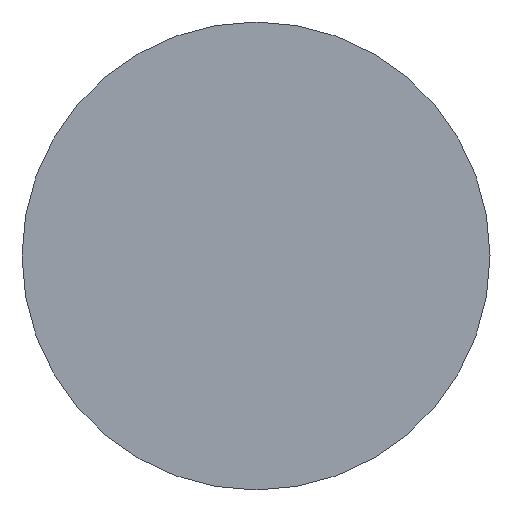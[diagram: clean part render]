
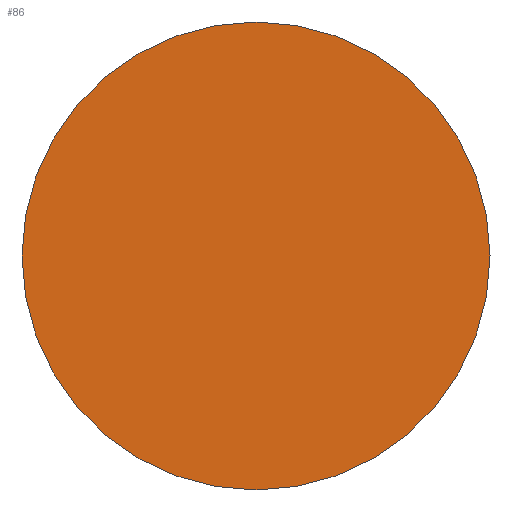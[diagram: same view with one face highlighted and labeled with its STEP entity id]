
A CAD part, left-side view. The second image highlights one B-rep face of the part: STEP entity #86.
In plain terms, the highlighted planar face has unit normal (-1, 0, 0).
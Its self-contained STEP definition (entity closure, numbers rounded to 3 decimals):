
#42=PLANE('',#82);
#46=ORIENTED_EDGE('',*,*,#52,.T.);
#48=CIRCLE('',#80,7.5);
#50=VERTEX_POINT('',#73);
#52=EDGE_CURVE('',#50,#50,#48,.T.);
#56=EDGE_LOOP('',(#46));
#60=FACE_BOUND('',#56,.T.);
#64=DIRECTION('',(-1.,0.,0.));
#65=DIRECTION('',(0.,0.,7.5));
#68=DIRECTION('',(-1.,0.,0.));
#69=DIRECTION('',(0.,1.,0.));
#73=CARTESIAN_POINT('',(0.,0.,7.5));
#74=CARTESIAN_POINT('',(0.,0.,0.));
#77=CARTESIAN_POINT('',(0.,0.,7.5));
#80=AXIS2_PLACEMENT_3D('',#74,#64,#65);
#82=AXIS2_PLACEMENT_3D('',#77,#68,#69);
#86=ADVANCED_FACE('',(#60),#42,.T.);
